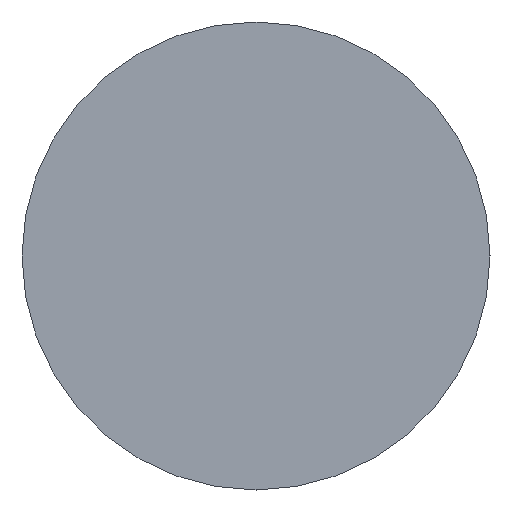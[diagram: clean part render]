
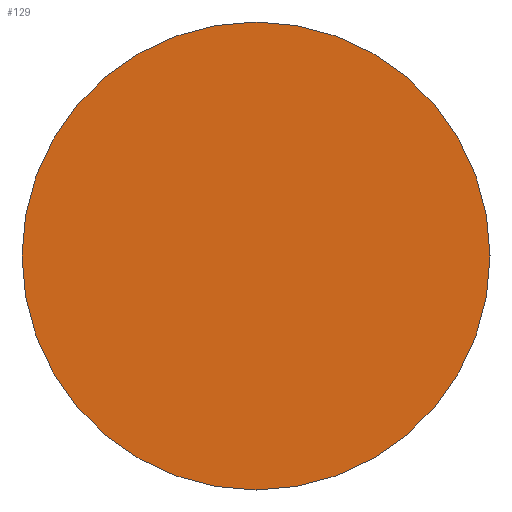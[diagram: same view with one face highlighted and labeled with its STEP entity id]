
A CAD part, front view. The second image highlights one B-rep face of the part: STEP entity #129.
In plain terms, the highlighted planar face has unit normal (0, -1, 0).
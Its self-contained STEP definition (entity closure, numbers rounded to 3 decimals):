
#3 = EDGE_LOOP ( 'NONE', ( #64, #251 ) ) ;
#18 = AXIS2_PLACEMENT_3D ( 'NONE', #229, #148, #225 ) ;
#36 = CIRCLE ( 'NONE', #240, 20. ) ;
#50 = CARTESIAN_POINT ( 'NONE',  ( 20., 0., 0. ) ) ;
#51 = PLANE ( 'NONE',  #140 ) ;
#58 = VERTEX_POINT ( 'NONE', #50 ) ;
#64 = ORIENTED_EDGE ( 'NONE', *, *, #235, .F. ) ;
#76 = CIRCLE ( 'NONE', #18, 20. ) ;
#107 = CARTESIAN_POINT ( 'NONE',  ( 0., 0., 0. ) ) ;
#129 = ADVANCED_FACE ( 'NONE', ( #237 ), #51, .T. ) ;
#140 = AXIS2_PLACEMENT_3D ( 'NONE', #154, #260, #232 ) ;
#148 = DIRECTION ( 'NONE',  ( 0., 1., 0. ) ) ;
#154 = CARTESIAN_POINT ( 'NONE',  ( 0., 0., 0. ) ) ;
#190 = DIRECTION ( 'NONE',  ( -1., 0., 0. ) ) ;
#192 = EDGE_CURVE ( 'NONE', #58, #265, #76, .T. ) ;
#205 = DIRECTION ( 'NONE',  ( 0., 1., 0. ) ) ;
#225 = DIRECTION ( 'NONE',  ( -1., 0., 0. ) ) ;
#229 = CARTESIAN_POINT ( 'NONE',  ( 0., 0., 0. ) ) ;
#231 = CARTESIAN_POINT ( 'NONE',  ( -20., 0., 0. ) ) ;
#232 = DIRECTION ( 'NONE',  ( 1., 0., 0. ) ) ;
#235 = EDGE_CURVE ( 'NONE', #265, #58, #36, .T. ) ;
#237 = FACE_OUTER_BOUND ( 'NONE', #3, .T. ) ;
#240 = AXIS2_PLACEMENT_3D ( 'NONE', #107, #205, #190 ) ;
#251 = ORIENTED_EDGE ( 'NONE', *, *, #192, .F. ) ;
#260 = DIRECTION ( 'NONE',  ( 0., -1., 0. ) ) ;
#265 = VERTEX_POINT ( 'NONE', #231 ) ;
